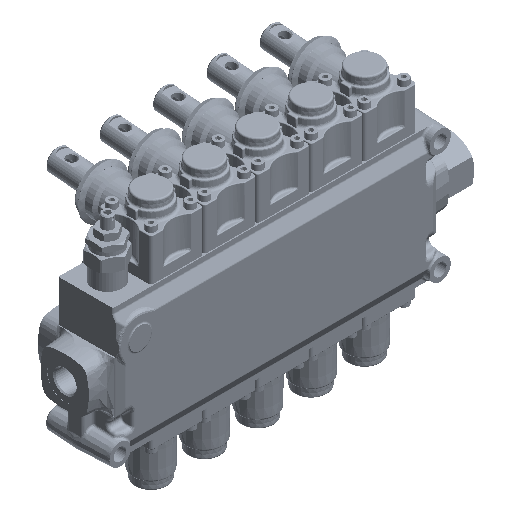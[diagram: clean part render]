
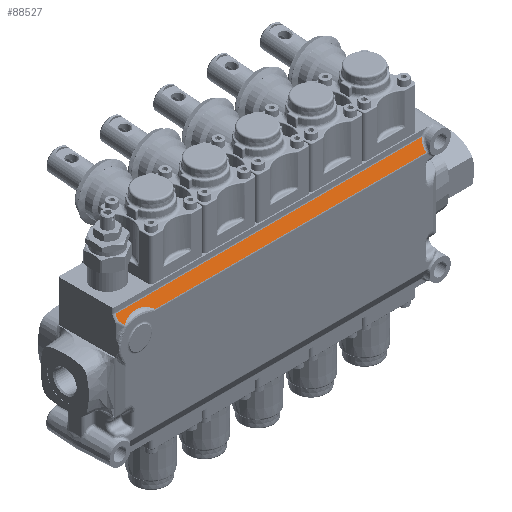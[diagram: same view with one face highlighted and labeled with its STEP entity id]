
A CAD part, isometric view. The second image highlights one B-rep face of the part: STEP entity #88527.
In plain terms, the highlighted planar face has unit normal (0, -0.866, 0.5) as drawn and (0.5, -0.866, 0) by its records, which use the part's own axes.
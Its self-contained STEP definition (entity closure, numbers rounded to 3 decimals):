
#1228 = CARTESIAN_POINT ( 'NONE',  ( 36., -24., -194.704 ) ) ;
#5826 = DIRECTION ( 'NONE',  ( 0., 0., -1. ) ) ;
#6269 = CARTESIAN_POINT ( 'NONE',  ( 36.348, -23.799, -194.704 ) ) ;
#7589 = VECTOR ( 'NONE', #11142, 1000. ) ;
#10467 = CARTESIAN_POINT ( 'NONE',  ( 38.743, -22.416, 39.553 ) ) ;
#10754 = EDGE_CURVE ( 'NONE', #88526, #31929, #24976, .T. ) ;
#11142 = DIRECTION ( 'NONE',  ( 0., 0., 1. ) ) ;
#13490 = VERTEX_POINT ( 'NONE', #47170 ) ;
#13691 = DIRECTION ( 'NONE',  ( 0.5, -0.866, 0. ) ) ;
#14108 = CARTESIAN_POINT ( 'NONE',  ( -65.016, -82.322, -60.016 ) ) ;
#14378 = EDGE_CURVE ( 'NONE', #31929, #13490, #47699, .T. ) ;
#14562 = DIRECTION ( 'NONE',  ( -0.655, -0.378, -0.655 ) ) ;
#14938 =( BOUNDED_CURVE ( )  B_SPLINE_CURVE ( 3, ( #59706, #87888, #24602, #74977 ),
 .UNSPECIFIED., .F., .F. ) 
 B_SPLINE_CURVE_WITH_KNOTS ( ( 4, 4 ),
 ( 4.422, 5.225 ),
 .UNSPECIFIED. ) 
 CURVE ( )  GEOMETRIC_REPRESENTATION_ITEM ( )  RATIONAL_B_SPLINE_CURVE ( ( 1., 0.947, 0.947, 1. ) ) 
 REPRESENTATION_ITEM ( '' )  );
#15570 = CARTESIAN_POINT ( 'NONE',  ( 36.826, -23.523, 41.826 ) ) ;
#17436 = VERTEX_POINT ( 'NONE', #23274 ) ;
#18240 = CARTESIAN_POINT ( 'NONE',  ( 37.914, -22.895, 40.832 ) ) ;
#18691 = LINE ( 'NONE', #6269, #77451 ) ;
#23274 = CARTESIAN_POINT ( 'NONE',  ( 39., -22.268, 38.982 ) ) ;
#23816 = CARTESIAN_POINT ( 'NONE',  ( 37.724, -23.005, 41.064 ) ) ;
#24602 = CARTESIAN_POINT ( 'NONE',  ( 41.255, -20.966, -171.804 ) ) ;
#24976 = LINE ( 'NONE', #53187, #7589 ) ;
#27549 = FACE_OUTER_BOUND ( 'NONE', #65337, .T. ) ;
#29373 = DIRECTION ( 'NONE',  ( 0.866, 0.5, 0. ) ) ;
#29837 = ORIENTED_EDGE ( 'NONE', *, *, #38580, .T. ) ;
#31079 = EDGE_CURVE ( 'NONE', #17436, #35248, #77829, .T. ) ;
#31929 = VERTEX_POINT ( 'NONE', #43942 ) ;
#32436 = ORIENTED_EDGE ( 'NONE', *, *, #10754, .T. ) ;
#33461 = EDGE_CURVE ( 'NONE', #35248, #34343, #18691, .T. ) ;
#33562 = CARTESIAN_POINT ( 'NONE',  ( 36.348, -23.799, 20.868 ) ) ;
#33977 = LINE ( 'NONE', #14108, #79318 ) ;
#34343 = VERTEX_POINT ( 'NONE', #83161 ) ;
#35248 = VERTEX_POINT ( 'NONE', #43079 ) ;
#38580 = EDGE_CURVE ( 'NONE', #13490, #76855, #33977, .T. ) ;
#41417 = EDGE_CURVE ( 'NONE', #76855, #17436, #52497, .T. ) ;
#42979 = ORIENTED_EDGE ( 'NONE', *, *, #31079, .T. ) ;
#43079 = CARTESIAN_POINT ( 'NONE',  ( 36.348, -23.799, 20.868 ) ) ;
#43942 = CARTESIAN_POINT ( 'NONE',  ( 43.446, -19.701, 45. ) ) ;
#45551 = CARTESIAN_POINT ( 'NONE',  ( 36.826, -23.523, 41.826 ) ) ;
#46446 = CARTESIAN_POINT ( 'NONE',  ( 38.443, -22.59, 40.097 ) ) ;
#47170 = CARTESIAN_POINT ( 'NONE',  ( 40., -21.691, 45. ) ) ;
#47443 = CARTESIAN_POINT ( 'NONE',  ( 40.813, -21.221, 26.02 ) ) ;
#47699 = LINE ( 'NONE', #62909, #68739 ) ;
#49560 = ORIENTED_EDGE ( 'NONE', *, *, #41417, .T. ) ;
#49728 = PLANE ( 'NONE',  #83758 ) ;
#52497 = B_SPLINE_CURVE_WITH_KNOTS ( 'NONE', 3,
 ( #45551, #66325, #73744, #23816, #18240, #46446, #10467, #72837 ),
 .UNSPECIFIED., .F., .F.,
 ( 4, 2, 2, 4 ),
 ( 0., 0.001, 0.002, 0.004 ),
 .UNSPECIFIED. ) ;
#53187 = CARTESIAN_POINT ( 'NONE',  ( 43.446, -19.701, 45. ) ) ;
#55068 = EDGE_CURVE ( 'NONE', #34343, #88526, #14938, .T. ) ;
#57731 = ORIENTED_EDGE ( 'NONE', *, *, #55068, .T. ) ;
#59706 = CARTESIAN_POINT ( 'NONE',  ( 36.348, -23.799, -172.245 ) ) ;
#62447 = DIRECTION ( 'NONE',  ( -0.866, -0.5, 0. ) ) ;
#62909 = CARTESIAN_POINT ( 'NONE',  ( 41., -21.113, 45. ) ) ;
#63103 = CARTESIAN_POINT ( 'NONE',  ( 41.8, -20.651, 32.766 ) ) ;
#63566 = CARTESIAN_POINT ( 'NONE',  ( 39., -22.268, 38.982 ) ) ;
#65337 = EDGE_LOOP ( 'NONE', ( #77501, #57731, #32436, #79712, #29837, #49560, #42979 ) ) ;
#66325 = CARTESIAN_POINT ( 'NONE',  ( 37.077, -23.378, 41.683 ) ) ;
#68739 = VECTOR ( 'NONE', #62447, 1000. ) ;
#71425 = CARTESIAN_POINT ( 'NONE',  ( 43.446, -19.701, -173.036 ) ) ;
#72837 = CARTESIAN_POINT ( 'NONE',  ( 39., -22.268, 38.982 ) ) ;
#73744 = CARTESIAN_POINT ( 'NONE',  ( 37.304, -23.247, 41.49 ) ) ;
#74977 = CARTESIAN_POINT ( 'NONE',  ( 43.446, -19.701, -173.036 ) ) ;
#76855 = VERTEX_POINT ( 'NONE', #15570 ) ;
#77451 = VECTOR ( 'NONE', #5826, 1000. ) ;
#77501 = ORIENTED_EDGE ( 'NONE', *, *, #33461, .T. ) ;
#77829 =( BOUNDED_CURVE ( )  B_SPLINE_CURVE ( 3, ( #63566, #63103, #47443, #33562 ),
 .UNSPECIFIED., .F., .F. ) 
 B_SPLINE_CURVE_WITH_KNOTS ( ( 4, 4 ),
 ( 2.718, 3.856 ),
 .UNSPECIFIED. ) 
 CURVE ( )  GEOMETRIC_REPRESENTATION_ITEM ( )  RATIONAL_B_SPLINE_CURVE ( ( 1., 0.895, 0.895, 1. ) ) 
 REPRESENTATION_ITEM ( '' )  );
#79318 = VECTOR ( 'NONE', #14562, 1000. ) ;
#79712 = ORIENTED_EDGE ( 'NONE', *, *, #14378, .T. ) ;
#83161 = CARTESIAN_POINT ( 'NONE',  ( 36.348, -23.799, -172.245 ) ) ;
#83758 = AXIS2_PLACEMENT_3D ( 'NONE', #1228, #13691, #29373 ) ;
#87888 = CARTESIAN_POINT ( 'NONE',  ( 38.757, -22.408, -171.525 ) ) ;
#88526 = VERTEX_POINT ( 'NONE', #71425 ) ;
#88527 = ADVANCED_FACE ( 'NONE', ( #27549 ), #49728, .T. ) ;
